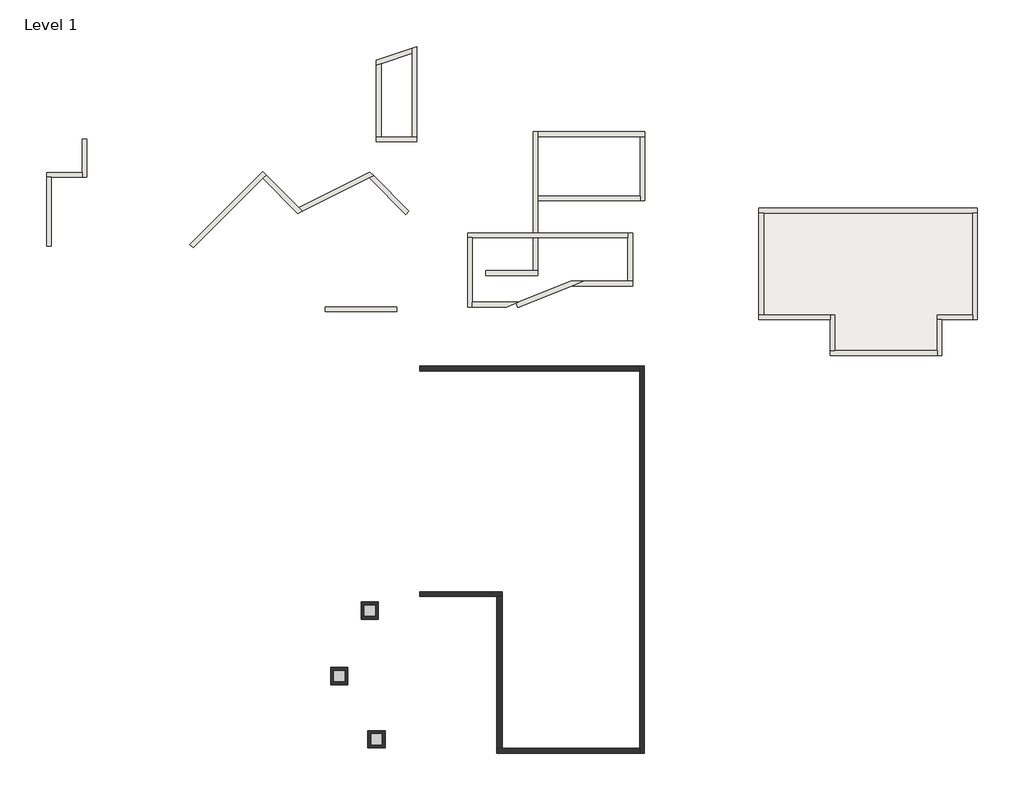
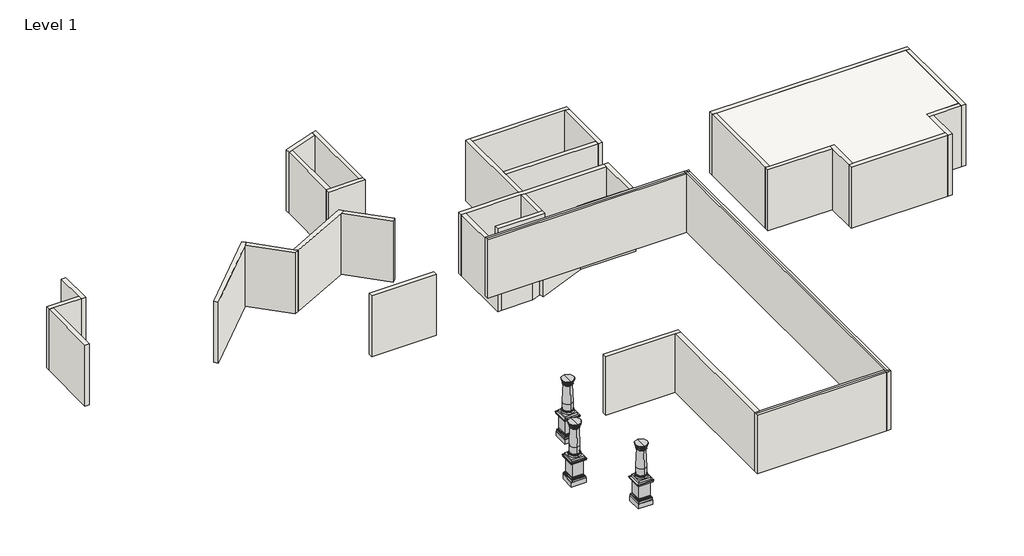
# One storey, incomplete: 36 walls, 3 columns, 1 slab.
"""IFC4 building model written with IfcOpenShell, lengths in millimetres."""

from ifc_helpers import new_model, si_unit, frame, origin, origin_with_axes, place, context, project, spatial, polyline, outline, extrude, faceted_brep, transform, mapped, element, save
from components import doric_column_f5a78e18

model = new_model("IFC4")

# Units and contexts
model_context = context("Model", 3, world=origin())
ifc_project = project(units=[si_unit("LENGTHUNIT", "METRE", prefix="MILLI")], contexts=[model_context])

# Site, building, storey
site = spatial("IfcSite", under=ifc_project)
building = spatial("IfcBuilding", under=site)
storey = spatial("IfcBuildingStorey", under=building, Name="Level 1", Elevation=0.0)

# Columns
placement = place(None, origin())
doric_column_shape = doric_column_f5a78e18(model_context)
element("IfcColumn", 1, ObjectType="Doric Column : 16'  Height (10 2/3 x Dia.)", at=placement, inside=storey, context=model_context, shape_type="MappedRepresentation", body=[
    mapped(doric_column_shape, transform((-19582.191895, 16646.1383993, 0.0), x_axis=(1.0, 0.0, 0.0), y_axis=(0.0, 1.0, 0.0), z_axis=(0.0, 0.0, 1.0))),
])
element("IfcColumn", 2, ObjectType="Doric Column : 16'  Height (10 2/3 x Dia.)", at=placement, inside=storey, context=model_context, shape_type="MappedRepresentation", body=[
    mapped(doric_column_shape, transform((-18280.1285772, 19453.7122635, 0.0), x_axis=(1.0, 0.0, 0.0), y_axis=(0.0, 1.0, 0.0), z_axis=(0.0, 0.0, 1.0))),
])
element("IfcColumn", 3, ObjectType="Doric Column : 16'  Height (10 2/3 x Dia.)", at=placement, inside=storey, context=model_context, shape_type="MappedRepresentation", body=[
    mapped(doric_column_shape, transform((-17988.2502344, 13941.9909091, 0.0), x_axis=(1.0, 0.0, 0.0), y_axis=(0.0, 1.0, 0.0), z_axis=(0.0, 0.0, 1.0))),
])

# Slab
element("IfcSlab", 4, ObjectType="3\" LW Concrete on 2\" Metal Deck", at=placement, inside=storey, context=model_context, shape_type="SweptSolid", body=[
    extrude(outline(polyline([(7518.4, 36474.4), (7518.4, 32105.6), (5994.4, 32105.6), (5994.4, 30581.6), (1625.6, 30581.6), (1625.6, 32105.6), (-1422.4, 32105.6), (-1422.4, 36474.4), (7518.4, 36474.4)])), frame((0.0, 0.0, -127.0), z_axis=(0.0, 0.0, 1.0), x_axis=(1.0, 0.0, 0.0)), (0.0, 0.0, 1.0), 127.0),
])

# Walls
element("IfcWall", 5, ObjectType="Exterior - 10\" Concrete", at=placement, inside=storey, context=model_context, shape_type="SweptSolid", body=[
    extrude(outline(polyline([(-12854.6573223, 13547.3383993), (-12854.6573223, 20049.7383993), (-12600.6573223, 20049.7383993), (-12600.6573223, 13547.3383993), (-12854.6573223, 13547.3383993)])), origin_with_axes(), (0.0, 0.0, 1.0), 2921.0),
])
element("IfcWall", 6, ObjectType="Generic - 8\"", at=placement, inside=storey, context=model_context, shape_type="Brep", body=[
    faceted_brep([(-12854.6573223, 13344.1383993, 0.0), (-6733.2573223, 13344.1383993, 0.0), (-6733.2573223, 13344.1383993, 2921.0), (-12854.6573223, 13344.1383993, 2921.0), (-12854.6573223, 13547.3383993, 0.0), (-12854.6573223, 13547.3383993, 2921.0), (-12600.6573223, 13547.3383993, 2921.0), (-6733.2573223, 13547.3383993, 2921.0), (-6733.2573223, 13547.3383993, 0.0), (-12600.6573223, 13547.3383993, 0.0), (-6733.2573223, 13445.7383993, 2921.0), (-12854.6573223, 13445.7383993, 2921.0)], [[[0, 1, 2, 3]], [[4, 5, 6, 7, 8, 9]], [[1, 0, 4, 9, 8]], [[2, 1, 8, 7, 10]], [[3, 2, 10, 11]], [[10, 7, 6, 5, 11]], [[0, 3, 11, 5, 4]]]),
])
element("IfcWall", 7, ObjectType="Generic - 8\"", at=placement, inside=storey, context=model_context, shape_type="Brep", body=[
    faceted_brep([(-6530.0573223, 13344.1383993, 0.0), (-6530.0573223, 29916.9162395, 0.0), (-6530.0573223, 29916.9162395, 2921.0), (-6530.0573223, 29815.3162395, 2921.0), (-6530.0573223, 13445.7383993, 2921.0), (-6530.0573223, 13344.1383993, 2921.0), (-6733.2573223, 13344.1383993, 0.0), (-6733.2573223, 13344.1383993, 2921.0), (-6733.2573223, 13445.7383993, 2921.0), (-6733.2573223, 13547.3383993, 2921.0), (-6733.2573223, 29713.7162395, 2921.0), (-6733.2573223, 29815.3162395, 2921.0), (-6733.2573223, 29916.9162395, 2921.0), (-6733.2573223, 29916.9162395, 0.0), (-6733.2573223, 29713.7162395, 0.0), (-6733.2573223, 13547.3383993, 0.0), (-6631.6573223, 13344.1383993, 2921.0), (-6631.6573223, 29916.9162395, 2921.0), (-6631.6573223, 29815.3162395, 2921.0), (-6631.6573223, 13445.7383993, 2921.0)], [[[0, 1, 2, 3, 4, 5]], [[6, 7, 8, 9, 10, 11, 12, 13, 14, 15]], [[1, 0, 6, 15, 14, 13]], [[0, 5, 16, 7, 6]], [[2, 1, 13, 12, 17]], [[17, 12, 11, 18]], [[3, 2, 17, 18]], [[8, 7, 16, 19]], [[4, 3, 18, 19]], [[5, 4, 19, 16]], [[18, 11, 10, 9, 8, 19]]]),
])
element("IfcWall", 8, ObjectType="Generic - 8\"", at=placement, inside=storey, context=model_context, shape_type="Brep", body=[
    faceted_brep([(-6733.2573223, 29916.9162395, 0.0), (-16004.2573223, 29916.9162395, 0.0), (-16131.2573223, 29916.9162395, 0.0), (-16131.2573223, 29916.9162395, 2921.0), (-16004.2573223, 29916.9162395, 2921.0), (-6733.2573223, 29916.9162395, 2921.0), (-6733.2573223, 29713.7162395, 0.0), (-6733.2573223, 29713.7162395, 2921.0), (-16004.2573223, 29713.7162395, 2921.0), (-16131.2573223, 29713.7162395, 2921.0), (-16131.2573223, 29713.7162395, 0.0), (-16004.2573223, 29713.7162395, 0.0), (-16131.2573223, 29815.3162395, 2921.0), (-6733.2573223, 29815.3162395, 2921.0)], [[[0, 1, 2, 3, 4, 5]], [[6, 7, 8, 9, 10, 11]], [[2, 1, 0, 6, 11, 10]], [[3, 2, 10, 9, 12]], [[0, 5, 13, 7, 6]], [[5, 4, 3, 12, 13]], [[12, 9, 8, 7, 13]]]),
])
element("IfcWall", 9, ObjectType="Generic - 8\"", at=placement, inside=storey, context=model_context, shape_type="Brep", body=[
    faceted_brep([(-16131.2573223, 20049.7383993, 0.0), (-12854.6573223, 20049.7383993, 0.0), (-12600.6573223, 20049.7383993, 0.0), (-12600.6573223, 20049.7383993, 2921.0), (-12854.6573223, 20049.7383993, 2921.0), (-16131.2573223, 20049.7383993, 2921.0), (-16131.2573223, 20252.9383993, 0.0), (-16131.2573223, 20252.9383993, 2921.0), (-12600.6573223, 20252.9383993, 2921.0), (-12600.6573223, 20252.9383993, 0.0)], [[[0, 1, 2, 3, 4, 5]], [[6, 7, 8, 9]], [[2, 1, 0, 6, 9]], [[0, 5, 7, 6]], [[5, 4, 3, 8, 7]], [[3, 2, 9, 8]]]),
])
element("IfcWall", 10, ObjectType="Generic - 8\"", at=placement, inside=storey, context=model_context, shape_type="SweptSolid", body=[
    extrude(outline(polyline([(-17124.909419, 32245.7691369), (-20172.909419, 32245.7691369), (-20172.909419, 32448.9691369), (-17124.909419, 32448.9691369), (-17124.909419, 32245.7691369)])), frame((0.0, 0.0, -3048.0), z_axis=(0.0, 0.0, 1.0), x_axis=(1.0, 0.0, 0.0)), (0.0, 0.0, 1.0), 3048.0),
])
element("IfcWall", 11, ObjectType="Generic - 8\"", at=placement, inside=storey, context=model_context, shape_type="Brep", body=[
    faceted_brep([(-11938.5552799, 32426.4257869, -3048.0), (-9644.7950475, 33353.1650766, -3048.0), (-9141.8573989, 33556.3650766, -3048.0), (-9141.8573989, 33556.3650766, 0.0), (-9644.7950475, 33353.1650766, 0.0), (-11938.5552799, 32426.4257869, 0.0), (-12014.6753397, 32614.8295461, -3048.0), (-12014.6753397, 32614.8295461, 0.0), (-11919.4869159, 32653.2881657, 0.0), (-9684.2931263, 33556.3650766, 0.0), (-9684.2931263, 33556.3650766, -3048.0), (-11919.4869159, 32653.2881657, -3048.0)], [[[0, 1, 2, 3, 4, 5]], [[6, 7, 8, 9, 10, 11]], [[2, 1, 0, 6, 11, 10]], [[5, 4, 3, 9, 8, 7]], [[0, 5, 7, 6]], [[3, 2, 10, 9]]]),
])
element("IfcWall", 12, ObjectType="Generic - 8\"", at=placement, inside=storey, context=model_context, shape_type="Brep", body=[
    faceted_brep([(-9644.7950475, 33353.1650766, -3048.0), (-7033.4515533, 33353.1650766, -3048.0), (-7033.4515533, 33353.1650766, 0.0), (-9644.7950475, 33353.1650766, 0.0), (-9141.8573989, 33556.3650766, -3048.0), (-9141.8573989, 33556.3650766, 0.0), (-7236.6515533, 33556.3650766, 0.0), (-7033.4515533, 33556.3650766, 0.0), (-7033.4515533, 33556.3650766, -3048.0), (-7236.6515533, 33556.3650766, -3048.0)], [[[0, 1, 2, 3]], [[4, 5, 6, 7, 8, 9]], [[1, 0, 4, 9, 8]], [[3, 2, 7, 6, 5]], [[0, 3, 5, 4]], [[2, 1, 8, 7]]]),
])
element("IfcWall", 13, ObjectType="Generic - 8\"", at=placement, inside=storey, context=model_context, shape_type="Brep", body=[
    faceted_brep([(-7033.4515533, 33556.3650766, -3048.0), (-7033.4515533, 35619.5831318, -3048.0), (-7033.4515533, 35619.5831318, 0.0), (-7033.4515533, 33556.3650766, 0.0), (-7236.6515533, 33556.3650766, -3048.0), (-7236.6515533, 33556.3650766, 0.0), (-7236.6515533, 35416.3831318, 0.0), (-7236.6515533, 35619.5831318, 0.0), (-7236.6515533, 35619.5831318, -3048.0), (-7236.6515533, 35416.3831318, -3048.0)], [[[0, 1, 2, 3]], [[4, 5, 6, 7, 8, 9]], [[1, 0, 4, 9, 8]], [[3, 2, 7, 6, 5]], [[0, 3, 5, 4]], [[2, 1, 8, 7]]]),
])
element("IfcWall", 14, ObjectType="Generic - 8\"", at=placement, inside=storey, context=model_context, shape_type="Brep", body=[
    faceted_brep([(-7236.6515533, 35619.5831318, -3048.0), (-11081.3641275, 35619.5831318, -3048.0), (-11284.5641275, 35619.5831318, -3048.0), (-14094.6515533, 35619.5831318, -3048.0), (-14094.6515533, 35619.5831318, 0.0), (-11284.5641275, 35619.5831318, 0.0), (-11081.3641275, 35619.5831318, 0.0), (-7236.6515533, 35619.5831318, 0.0), (-7236.6515533, 35416.3831318, -3048.0), (-7236.6515533, 35416.3831318, 0.0), (-11081.3641275, 35416.3831318, 0.0), (-11284.5641275, 35416.3831318, 0.0), (-13891.4515533, 35416.3831318, 0.0), (-14094.6515533, 35416.3831318, 0.0), (-14094.6515533, 35416.3831318, -3048.0), (-13891.4515533, 35416.3831318, -3048.0), (-11284.5641275, 35416.3831318, -3048.0), (-11081.3641275, 35416.3831318, -3048.0)], [[[0, 1, 2, 3, 4, 5, 6, 7]], [[8, 9, 10, 11, 12, 13, 14, 15, 16, 17]], [[3, 2, 1, 0, 8, 17, 16, 15, 14]], [[7, 6, 5, 4, 13, 12, 11, 10, 9]], [[0, 7, 9, 8]], [[4, 3, 14, 13]]]),
])
element("IfcWall", 15, ObjectType="Generic - 8\"", at=placement, inside=storey, context=model_context, shape_type="Brep", body=[
    faceted_brep([(-14094.6515533, 35416.3831318, -3048.0), (-14094.6515533, 32450.0881657, -3048.0), (-14094.6515533, 32450.0881657, 0.0), (-14094.6515533, 35416.3831318, 0.0), (-13891.4515533, 35416.3831318, -3048.0), (-13891.4515533, 35416.3831318, 0.0), (-13891.4515533, 32653.2881657, 0.0), (-13891.4515533, 32450.0881657, 0.0), (-13891.4515533, 32450.0881657, -3048.0), (-13891.4515533, 32653.2881657, -3048.0)], [[[0, 1, 2, 3]], [[4, 5, 6, 7, 8, 9]], [[1, 0, 4, 9, 8]], [[3, 2, 7, 6, 5]], [[0, 3, 5, 4]], [[2, 1, 8, 7]]]),
])
element("IfcWall", 16, ObjectType="Generic - 8\"", at=placement, inside=storey, context=model_context, shape_type="Brep", body=[
    faceted_brep([(-13891.4515533, 32450.0881657, -3048.0), (-12422.4245645, 32450.0881657, -3048.0), (-12422.4245645, 32450.0881657, 0.0), (-13891.4515533, 32450.0881657, 0.0), (-13891.4515533, 32653.2881657, -3048.0), (-13891.4515533, 32653.2881657, 0.0), (-11919.4869159, 32653.2881657, 0.0), (-11919.4869159, 32653.2881657, -3048.0), (-12014.6753397, 32614.8295461, -3048.0), (-12014.6753397, 32614.8295461, 0.0)], [[[0, 1, 2, 3]], [[4, 5, 6, 7]], [[1, 0, 4, 7, 8]], [[3, 2, 9, 6, 5]], [[0, 3, 5, 4]], [[2, 1, 8, 7, 6, 9]]]),
])
element("IfcWall", 17, ObjectType="Generic - 8\"", at=placement, inside=storey, context=model_context, shape_type="Brep", body=[
    faceted_brep([(-13316.5641275, 33797.6398568, -3048.0), (-11081.3641275, 33797.6398568, -3048.0), (-11081.3641275, 33797.6398568, 0.0), (-13316.5641275, 33797.6398568, 0.0), (-13316.5641275, 34000.8398568, -3048.0), (-13316.5641275, 34000.8398568, 0.0), (-11284.5641275, 34000.8398568, 0.0), (-11081.3641275, 34000.8398568, 0.0), (-11081.3641275, 34000.8398568, -3048.0), (-11284.5641275, 34000.8398568, -3048.0)], [[[0, 1, 2, 3]], [[4, 5, 6, 7, 8, 9]], [[1, 0, 4, 9, 8]], [[3, 2, 7, 6, 5]], [[0, 3, 5, 4]], [[2, 1, 8, 7]]]),
])
element("IfcWall", 18, ObjectType="Generic - 8\"", at=placement, inside=storey, context=model_context, shape_type="Brep", body=[
    faceted_brep([(-11081.3641275, 34000.8398568, 0.0), (-11081.3641275, 34000.8398568, -3048.0), (-11081.3641275, 35416.3831318, -3048.0), (-11081.3641275, 35416.3831318, 0.0), (-11284.5641275, 34000.8398568, -3048.0), (-11284.5641275, 34000.8398568, 0.0), (-11284.5641275, 35416.3831318, 0.0), (-11284.5641275, 35416.3831318, -3048.0)], [[[0, 1, 2, 3]], [[4, 5, 6, 7]], [[1, 4, 7, 2]], [[5, 0, 3, 6]], [[1, 0, 5, 4]], [[3, 2, 7, 6]]]),
    faceted_brep([(-11081.3641275, 39944.4398568, -3048.0), (-11081.3641275, 39944.4398568, 0.0), (-11081.3641275, 39741.2398568, 0.0), (-11081.3641275, 37201.2398568, 0.0), (-11081.3641275, 36998.0398568, 0.0), (-11081.3641275, 35619.5831318, 0.0), (-11081.3641275, 35619.5831318, -3048.0), (-11081.3641275, 36998.0398568, -3048.0), (-11081.3641275, 37201.2398568, -3048.0), (-11081.3641275, 39741.2398568, -3048.0), (-11284.5641275, 39944.4398568, 0.0), (-11284.5641275, 39944.4398568, -3048.0), (-11284.5641275, 35619.5831318, -3048.0), (-11284.5641275, 35619.5831318, 0.0)], [[[0, 1, 2, 3, 4, 5, 6, 7, 8, 9]], [[10, 11, 12, 13]], [[11, 0, 9, 8, 7, 6, 12]], [[1, 10, 13, 5, 4, 3, 2]], [[6, 5, 13, 12]], [[1, 0, 11, 10]]]),
])
element("IfcWall", 19, ObjectType="Generic - 8\"", at=placement, inside=storey, context=model_context, shape_type="Brep", body=[
    faceted_brep([(-11081.3641275, 39741.2398568, -3048.0), (-6712.5641275, 39741.2398568, -3048.0), (-6509.3641275, 39741.2398568, -3048.0), (-6509.3641275, 39741.2398568, 0.0), (-6712.5641275, 39741.2398568, 0.0), (-11081.3641275, 39741.2398568, 0.0), (-11081.3641275, 39944.4398568, -3048.0), (-11081.3641275, 39944.4398568, 0.0), (-6509.3641275, 39944.4398568, 0.0), (-6509.3641275, 39944.4398568, -3048.0)], [[[0, 1, 2, 3, 4, 5]], [[6, 7, 8, 9]], [[2, 1, 0, 6, 9]], [[5, 4, 3, 8, 7]], [[0, 5, 7, 6]], [[3, 2, 9, 8]]]),
])
element("IfcWall", 20, ObjectType="Generic - 8\"", at=placement, inside=storey, context=model_context, shape_type="Brep", body=[
    faceted_brep([(-6712.5641275, 39741.2398568, -3048.0), (-6712.5641275, 37201.2398568, -3048.0), (-6712.5641275, 36998.0398568, -3048.0), (-6712.5641275, 36998.0398568, 0.0), (-6712.5641275, 37201.2398568, 0.0), (-6712.5641275, 39741.2398568, 0.0), (-6509.3641275, 39741.2398568, -3048.0), (-6509.3641275, 39741.2398568, 0.0), (-6509.3641275, 36998.0398568, 0.0), (-6509.3641275, 36998.0398568, -3048.0)], [[[0, 1, 2, 3, 4, 5]], [[6, 7, 8, 9]], [[2, 1, 0, 6, 9]], [[5, 4, 3, 8, 7]], [[0, 5, 7, 6]], [[3, 2, 9, 8]]]),
])
element("IfcWall", 21, ObjectType="Generic - 8\"", at=placement, inside=storey, context=model_context, shape_type="SweptSolid", body=[
    extrude(outline(polyline([(-11081.3641275, 37201.2398568), (-6712.5641275, 37201.2398568), (-6712.5641275, 36998.0398568), (-11081.3641275, 36998.0398568), (-11081.3641275, 37201.2398568)])), frame((0.0, 0.0, -3048.0), z_axis=(0.0, 0.0, 1.0), x_axis=(1.0, 0.0, 0.0)), (0.0, 0.0, 1.0), 3048.0),
])
element("IfcWall", 22, ObjectType="Generic - 8\"", at=placement, inside=storey, context=model_context, shape_type="Brep", body=[
    faceted_brep([(-25836.157951, 34980.157951, -3048.0), (-22860.0, 37956.3159021, -3048.0), (-22716.3159021, 38100.0, -3048.0), (-22716.3159021, 38100.0, 0.0), (-22860.0, 37956.3159021, 0.0), (-25836.157951, 34980.157951, 0.0), (-25979.842049, 35123.842049, -3048.0), (-25979.842049, 35123.842049, 0.0), (-22860.0, 38243.6840979, 0.0), (-22860.0, 38243.6840979, -3048.0)], [[[0, 1, 2, 3, 4, 5]], [[6, 7, 8, 9]], [[2, 1, 0, 6, 9]], [[5, 4, 3, 8, 7]], [[0, 5, 7, 6]], [[3, 2, 9, 8]]]),
])
element("IfcWall", 23, ObjectType="Generic - 8\"", at=placement, inside=storey, context=model_context, shape_type="Brep", body=[
    faceted_brep([(-22860.0, 37956.3159021, -3048.0), (-21356.0612298, 36452.3771318, -3048.0), (-21356.0612298, 36452.3771318, 0.0), (-22860.0, 37956.3159021, 0.0), (-22716.3159021, 38100.0, -3048.0), (-22716.3159021, 38100.0, 0.0), (-21315.9387702, 36699.6228682, 0.0), (-21164.4824325, 36548.1665305, 0.0), (-21164.4824325, 36548.1665305, -3048.0), (-21315.9387702, 36699.6228682, -3048.0)], [[[0, 1, 2, 3]], [[4, 5, 6, 7, 8, 9]], [[1, 0, 4, 9, 8]], [[3, 2, 7, 6, 5]], [[0, 3, 5, 4]], [[2, 1, 8, 7]]]),
])
element("IfcWall", 24, ObjectType="Generic - 8\"", at=placement, inside=storey, context=model_context, shape_type="Brep", body=[
    faceted_brep([(-21164.4824325, 36548.1665305, -3048.0), (-18308.0612298, 37976.3771318, -3048.0), (-18116.4824325, 38072.1665305, -3048.0), (-18116.4824325, 38072.1665305, 0.0), (-18308.0612298, 37976.3771318, 0.0), (-21164.4824325, 36548.1665305, 0.0), (-21315.9387702, 36699.6228682, -3048.0), (-21315.9387702, 36699.6228682, 0.0), (-18267.9387702, 38223.6228682, 0.0), (-18267.9387702, 38223.6228682, -3048.0)], [[[0, 1, 2, 3, 4, 5]], [[6, 7, 8, 9]], [[2, 1, 0, 6, 9]], [[5, 4, 3, 8, 7]], [[0, 5, 7, 6]], [[3, 2, 9, 8]]]),
])
element("IfcWall", 25, ObjectType="Generic - 8\"", at=placement, inside=storey, context=model_context, shape_type="SweptSolid", body=[
    extrude(outline(polyline([(-16743.3959472, 36411.7118492), (-18308.0612298, 37976.3771318), (-18116.4824325, 38072.1665305), (-16599.7118492, 36555.3959472), (-16743.3959472, 36411.7118492)])), frame((0.0, 0.0, -3048.0), z_axis=(0.0, 0.0, 1.0), x_axis=(1.0, 0.0, 0.0)), (0.0, 0.0, 1.0), 3048.0),
])
element("IfcWall", 26, ObjectType="Generic - 8\"", at=placement, inside=storey, context=model_context, shape_type="Brep", body=[
    faceted_brep([(-30581.6, 39624.0, -3048.0), (-30581.6, 38201.6, -3048.0), (-30581.6, 37998.4, -3048.0), (-30581.6, 37998.4, 0.0), (-30581.6, 38201.6, 0.0), (-30581.6, 39624.0, 0.0), (-30378.4, 39624.0, -3048.0), (-30378.4, 39624.0, 0.0), (-30378.4, 37998.4, 0.0), (-30378.4, 37998.4, -3048.0)], [[[0, 1, 2, 3, 4, 5]], [[6, 7, 8, 9]], [[2, 1, 0, 6, 9]], [[5, 4, 3, 8, 7]], [[0, 5, 7, 6]], [[3, 2, 9, 8]]]),
])
element("IfcWall", 27, ObjectType="Generic - 8\"", at=placement, inside=storey, context=model_context, shape_type="Brep", body=[
    faceted_brep([(-30581.6, 38201.6, -3048.0), (-32105.6, 38201.6, -3048.0), (-32105.6, 38201.6, 0.0), (-30581.6, 38201.6, 0.0), (-30581.6, 37998.4, -3048.0), (-30581.6, 37998.4, 0.0), (-31902.4, 37998.4, 0.0), (-32105.6, 37998.4, 0.0), (-32105.6, 37998.4, -3048.0), (-31902.4, 37998.4, -3048.0)], [[[0, 1, 2, 3]], [[4, 5, 6, 7, 8, 9]], [[1, 0, 4, 9, 8]], [[3, 2, 7, 6, 5]], [[0, 3, 5, 4]], [[2, 1, 8, 7]]]),
])
element("IfcWall", 28, ObjectType="Generic - 8\"", at=placement, inside=storey, context=model_context, shape_type="SweptSolid", body=[
    extrude(outline(polyline([(-32105.6, 35052.0), (-32105.6, 37998.4), (-31902.4, 37998.4), (-31902.4, 35052.0), (-32105.6, 35052.0)])), frame((0.0, 0.0, -3048.0), z_axis=(0.0, 0.0, 1.0), x_axis=(1.0, 0.0, 0.0)), (0.0, 0.0, 1.0), 3048.0),
])
element("IfcWall", 29, ObjectType="Generic - 8\"", at=placement, inside=storey, context=model_context, shape_type="Brep", body=[
    faceted_brep([(-17990.1641275, 39522.4, -3048.0), (-16262.9641275, 39522.4, -3048.0), (-16262.9641275, 39522.4, 0.0), (-17990.1641275, 39522.4, 0.0), (-17990.1641275, 39725.6, -3048.0), (-17990.1641275, 39725.6, 0.0), (-17786.9641275, 39725.6, 0.0), (-16466.1641275, 39725.6, 0.0), (-16262.9641275, 39725.6, 0.0), (-16262.9641275, 39725.6, -3048.0), (-16466.1641275, 39725.6, -3048.0), (-17786.9641275, 39725.6, -3048.0)], [[[0, 1, 2, 3]], [[4, 5, 6, 7, 8, 9, 10, 11]], [[1, 0, 4, 11, 10, 9]], [[3, 2, 8, 7, 6, 5]], [[2, 1, 9, 8]], [[0, 3, 5, 4]]]),
])
element("IfcWall", 30, ObjectType="Generic - 8\"", at=placement, inside=storey, context=model_context, shape_type="Brep", body=[
    faceted_brep([(-16262.9641275, 39725.6, -3048.0), (-16262.9641275, 43599.0038962, -3048.0), (-16262.9641275, 43599.0038962, 0.0), (-16262.9641275, 39725.6, 0.0), (-16466.1641275, 39725.6, -3048.0), (-16466.1641275, 39725.6, 0.0), (-16466.1641275, 43314.1280027, 0.0), (-16466.1641275, 43529.0365252, 0.0), (-16466.1641275, 43529.0365252, -3048.0), (-16466.1641275, 43314.1280027, -3048.0)], [[[0, 1, 2, 3]], [[4, 5, 6, 7, 8, 9]], [[1, 0, 4, 9, 8]], [[3, 2, 7, 6, 5]], [[0, 3, 5, 4]], [[2, 1, 8, 7]]]),
])
element("IfcWall", 31, ObjectType="Generic - 8\"", at=placement, inside=storey, context=model_context, shape_type="Brep", body=[
    faceted_brep([(-16466.1641275, 43529.0365252, -3048.0), (-17990.1641275, 43004.2812425, -3048.0), (-17990.1641275, 43004.2812425, 0.0), (-16466.1641275, 43529.0365252, 0.0), (-16466.1641275, 43314.1280027, -3048.0), (-16466.1641275, 43314.1280027, 0.0), (-17786.9641275, 42859.3400911, 0.0), (-17990.1641275, 42789.3727201, 0.0), (-17990.1641275, 42789.3727201, -3048.0), (-17786.9641275, 42859.3400911, -3048.0)], [[[0, 1, 2, 3]], [[4, 5, 6, 7, 8, 9]], [[1, 0, 4, 9, 8]], [[3, 2, 7, 6, 5]], [[2, 1, 8, 7]], [[0, 3, 5, 4]]]),
])
element("IfcWall", 32, ObjectType="Generic - 8\"", at=placement, inside=storey, context=model_context, shape_type="SweptSolid", body=[
    extrude(outline(polyline([(-17990.1641275, 39725.6), (-17990.1641275, 42789.3727201), (-17786.9641275, 42859.3400911), (-17786.9641275, 39725.6), (-17990.1641275, 39725.6)])), frame((0.0, 0.0, -3048.0), z_axis=(0.0, 0.0, 1.0), x_axis=(1.0, 0.0, 0.0)), (0.0, 0.0, 1.0), 3048.0),
])
element("IfcWall", 33, ObjectType="Generic - 8\"", at=placement, inside=storey, context=model_context, shape_type="Brep", body=[
    faceted_brep([(-1625.6, 36474.4, -3048.0), (-1422.4, 36474.4, -3048.0), (7518.4, 36474.4, -3048.0), (7721.6, 36474.4, -3048.0), (7721.6, 36474.4, 0.0), (7518.4, 36474.4, 0.0), (-1422.4, 36474.4, 0.0), (-1625.6, 36474.4, 0.0), (-1625.6, 36677.6, -3048.0), (-1625.6, 36677.6, 0.0), (7721.6, 36677.6, 0.0), (7721.6, 36677.6, -3048.0)], [[[0, 1, 2, 3, 4, 5, 6, 7]], [[8, 9, 10, 11]], [[3, 2, 1, 0, 8, 11]], [[7, 6, 5, 4, 10, 9]], [[4, 3, 11, 10]], [[0, 7, 9, 8]]]),
])
element("IfcWall", 34, ObjectType="Generic - 8\"", at=placement, inside=storey, context=model_context, shape_type="Brep", body=[
    faceted_brep([(7518.4, 36474.4, -3048.0), (7518.4, 32105.6, -3048.0), (7518.4, 31902.4, -3048.0), (7518.4, 31902.4, 0.0), (7518.4, 32105.6, 0.0), (7518.4, 36474.4, 0.0), (7721.6, 36474.4, -3048.0), (7721.6, 36474.4, 0.0), (7721.6, 31902.4, 0.0), (7721.6, 31902.4, -3048.0)], [[[0, 1, 2, 3, 4, 5]], [[6, 7, 8, 9]], [[2, 1, 0, 6, 9]], [[5, 4, 3, 8, 7]], [[0, 5, 7, 6]], [[3, 2, 9, 8]]]),
])
element("IfcWall", 35, ObjectType="Generic - 8\"", at=placement, inside=storey, context=model_context, shape_type="Brep", body=[
    faceted_brep([(7518.4, 32105.6, -3048.0), (5994.4, 32105.6, -3048.0), (5994.4, 32105.6, 0.0), (7518.4, 32105.6, 0.0), (7518.4, 31902.4, -3048.0), (7518.4, 31902.4, 0.0), (6197.6, 31902.4, 0.0), (5994.4, 31902.4, 0.0), (5994.4, 31902.4, -3048.0), (6197.6, 31902.4, -3048.0)], [[[0, 1, 2, 3]], [[4, 5, 6, 7, 8, 9]], [[1, 0, 4, 9, 8]], [[3, 2, 7, 6, 5]], [[0, 3, 5, 4]], [[2, 1, 8, 7]]]),
])
element("IfcWall", 36, ObjectType="Generic - 8\"", at=placement, inside=storey, context=model_context, shape_type="Brep", body=[
    faceted_brep([(5994.4, 31902.4, -3048.0), (5994.4, 30581.6, -3048.0), (5994.4, 30378.4, -3048.0), (5994.4, 30378.4, 0.0), (5994.4, 30581.6, 0.0), (5994.4, 31902.4, 0.0), (6197.6, 31902.4, -3048.0), (6197.6, 31902.4, 0.0), (6197.6, 30378.4, 0.0), (6197.6, 30378.4, -3048.0)], [[[0, 1, 2, 3, 4, 5]], [[6, 7, 8, 9]], [[2, 1, 0, 6, 9]], [[5, 4, 3, 8, 7]], [[0, 5, 7, 6]], [[3, 2, 9, 8]]]),
])
element("IfcWall", 37, ObjectType="Generic - 8\"", at=placement, inside=storey, context=model_context, shape_type="Brep", body=[
    faceted_brep([(5994.4, 30581.6, -3048.0), (1625.6, 30581.6, -3048.0), (1422.4, 30581.6, -3048.0), (1422.4, 30581.6, 0.0), (1625.6, 30581.6, 0.0), (5994.4, 30581.6, 0.0), (5994.4, 30378.4, -3048.0), (5994.4, 30378.4, 0.0), (1422.4, 30378.4, 0.0), (1422.4, 30378.4, -3048.0)], [[[0, 1, 2, 3, 4, 5]], [[6, 7, 8, 9]], [[2, 1, 0, 6, 9]], [[5, 4, 3, 8, 7]], [[0, 5, 7, 6]], [[3, 2, 9, 8]]]),
])
element("IfcWall", 38, ObjectType="Generic - 8\"", at=placement, inside=storey, context=model_context, shape_type="Brep", body=[
    faceted_brep([(1625.6, 30581.6, -3048.0), (1625.6, 32105.6, -3048.0), (1625.6, 32105.6, 0.0), (1625.6, 30581.6, 0.0), (1422.4, 30581.6, -3048.0), (1422.4, 30581.6, 0.0), (1422.4, 31902.4, 0.0), (1422.4, 32105.6, 0.0), (1422.4, 32105.6, -3048.0), (1422.4, 31902.4, -3048.0)], [[[0, 1, 2, 3]], [[4, 5, 6, 7, 8, 9]], [[1, 0, 4, 9, 8]], [[3, 2, 7, 6, 5]], [[0, 3, 5, 4]], [[2, 1, 8, 7]]]),
])
element("IfcWall", 39, ObjectType="Generic - 8\"", at=placement, inside=storey, context=model_context, shape_type="Brep", body=[
    faceted_brep([(1422.4, 32105.6, -3048.0), (-1422.4, 32105.6, -3048.0), (-1625.6, 32105.6, -3048.0), (-1625.6, 32105.6, 0.0), (-1422.4, 32105.6, 0.0), (1422.4, 32105.6, 0.0), (1422.4, 31902.4, -3048.0), (1422.4, 31902.4, 0.0), (-1625.6, 31902.4, 0.0), (-1625.6, 31902.4, -3048.0)], [[[0, 1, 2, 3, 4, 5]], [[6, 7, 8, 9]], [[2, 1, 0, 6, 9]], [[5, 4, 3, 8, 7]], [[0, 5, 7, 6]], [[3, 2, 9, 8]]]),
])
element("IfcWall", 40, ObjectType="Generic - 8\"", at=placement, inside=storey, context=model_context, shape_type="SweptSolid", body=[
    extrude(outline(polyline([(-1422.4, 36474.4), (-1422.4, 32105.6), (-1625.6, 32105.6), (-1625.6, 36474.4), (-1422.4, 36474.4)])), frame((0.0, 0.0, -3048.0), z_axis=(0.0, 0.0, 1.0), x_axis=(1.0, 0.0, 0.0)), (0.0, 0.0, 1.0), 3048.0),
])

save(model, "model.ifc")
